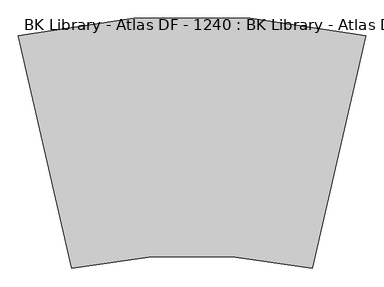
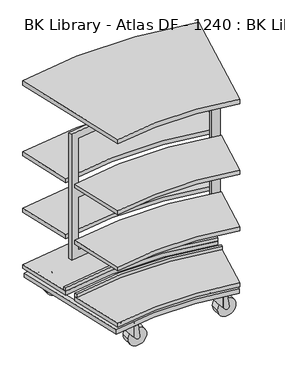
"""IFC4 building model written with IfcOpenShell, lengths in millimetres: furniture geometry, BK Library - Atlas DF - 1240 : BK Library - Atlas DF - 1240."""

from ifc_helpers import new_model, si_unit, point, frame, frame_2d, origin, place, context, project, spatial, polyline, circle_curve, ellipse_curve, trimmed, segment, composite_curve, outline, extrude, source, transform, mapped, element, save
from ifc_brep_helpers import plane_surface, cylinder_surface, revolved_surface, advanced_brep


def bk_library_atlas_df_1240_bk_library_atlas_df_1240_fbd94dde(model_context):
    return source(origin(), model_context, "Body", "SolidModel", [
        extrude(outline(composite_curve([segment(trimmed(circle_curve(frame_2d((0.0, -1777.8812307)), 2148.52767), [point((-474.1962162, 317.663829))], [point((474.1962162, 317.663829))], False, "CARTESIAN"), True, "CONTINUOUS"), segment(polyline([(474.1962162, 317.663829), (327.6944521, -317.663829)]), True, "CONTINUOUS"), segment(trimmed(circle_curve(frame_2d((0.0, -1840.4430404)), 1557.6392973), [point((327.6944521, -317.663829))], [point((-327.6944521, -317.663829))], True, "CARTESIAN"), True, "CONTINUOUS"), segment(polyline([(-327.6944521, -317.663829), (-474.1962162, 317.663829)]), True, "CONTINUOUS")], self_intersect=False)), frame((0.0, 0.0, 1213.6999998), z_axis=(0.0, 0.0, 1.0), x_axis=(1.0, 0.0, 0.0)), (0.0, 0.0, 1.0), 24.0),
        advanced_brep(
        [(-272.2019507, -254.1984705, 121.6226045), (-207.2197258, -254.1984705, 121.6226045), (-207.2197258, -254.1984705, 116.3900038), (-219.4802832, -228.7741311, 116.3900038), (-219.4802832, -228.7741311, 54.5515736), (-269.4995427, -241.2252106, 113.1446696), (-272.2019507, -254.1984705, 113.1446696), (-207.2197258, -254.1984705, 113.8999998), (-207.2197258, -254.1984705, 44.4908375), (-210.891719, -239.1941127, 44.4908375), (-216.827675, -231.132625, 51.4442799), (-216.827675, -231.132625, 113.8999998), (-216.921762, -277.3572785, 113.8999998), (-216.921762, -277.3572785, 51.5544945), (-210.891719, -269.2028283, 44.4908375), (-269.4995427, -267.1717304, 113.1446696), (-219.5976662, -279.7157724, 54.6890773), (-219.5976662, -279.7157724, 116.3900038), (-210.891719, -254.1984705, 44.4908375), (-214.2197258, -254.1984705, 128.6226045), (-265.2019507, -254.1984705, 128.6226045), (-239.7108382, -254.1984705, 128.6226045), (-208.6289168, -279.7157724, 41.8401668), (-188.2600466, -279.7157724, 51.0748876), (-197.7770665, -279.7157724, 116.3900038), (-197.7770665, -228.7741311, 116.3900038), (-188.2600466, -228.7741311, 51.0748876), (-208.6289168, -228.7741311, 41.8401668), (-208.6289168, -277.3572785, 41.8401668), (-208.6289168, -231.132625, 41.8401668), (-188.2600466, -277.3572785, 51.0748876), (-188.2600466, -231.132625, 51.0748876), (-197.4142497, -277.3572785, 113.8999998), (-197.4142497, -231.132625, 113.8999998)],
        [
            (0, 1, circle_curve(frame((-239.7108382, -254.1984705, 121.6226045), z_axis=(0.0, 0.0, -1.0), x_axis=(-1.0, 0.0, 0.0)), 32.4911124)),
            (1, 2),
            (2, 3, circle_curve(frame((-239.7108382, -254.1984705, 116.3900038), z_axis=(0.0, 0.0, 1.0), x_axis=(-1.0, 0.0, 0.0)), 32.4911124)),
            (3, 4),
            (4, 5, ellipse_curve(frame((-239.7108382, -254.1984705, 78.2498623), z_axis=(0.7605596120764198, 0.0, 0.6492681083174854), x_axis=(0.6492681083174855, 0.0, -0.7605596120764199)), 50.0426742, 32.4911124)),
            (5, 6, circle_curve(frame((-239.7108382, -254.1984705, 113.1446696), z_axis=(0.0, 0.0, 1.0), x_axis=(-1.0, 0.0, 0.0)), 32.4911124)),
            (6, 0),
            (7, 8),
            (8, 9, circle_curve(frame((-239.7108382, -254.1984705, 44.4908375), z_axis=(0.0, 0.0, 1.0), x_axis=(-1.0, 0.0, 0.0)), 32.4911124)),
            (9, 10, ellipse_curve(frame((-239.7108382, -254.1984705, 78.2498623), z_axis=(0.7605596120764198, 0.0, 0.6492681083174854), x_axis=(0.6492681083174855, 0.0, -0.7605596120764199)), 50.0426742, 32.4911124)),
            (10, 11),
            (11, 7, circle_curve(frame((-239.7108382, -254.1984705, 113.8999998), z_axis=(0.0, 0.0, -1.0), x_axis=(-1.0, 0.0, 0.0)), 32.4911124)),
            (7, 12, circle_curve(frame((-239.7108382, -254.1984705, 113.8999998), z_axis=(0.0, 0.0, -1.0), x_axis=(-1.0, 0.0, 0.0)), 32.4911124)),
            (12, 13),
            (13, 14, ellipse_curve(frame((-239.7108382, -254.1984705, 78.2498623), z_axis=(0.7605596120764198, 0.0, 0.6492681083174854), x_axis=(0.6492681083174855, 0.0, -0.7605596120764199)), 50.0426742, 32.4911124)),
            (14, 8, circle_curve(frame((-239.7108382, -254.1984705, 44.4908375), z_axis=(0.0, 0.0, 1.0), x_axis=(-1.0, 0.0, 0.0)), 32.4911124)),
            (1, 0, circle_curve(frame((-239.7108382, -254.1984705, 121.6226045), z_axis=(0.0, 0.0, -1.0), x_axis=(-1.0, 0.0, 0.0)), 32.4911124)),
            (6, 15, circle_curve(frame((-239.7108382, -254.1984705, 113.1446696), z_axis=(0.0, 0.0, 1.0), x_axis=(-1.0, 0.0, 0.0)), 32.4911124)),
            (15, 16, ellipse_curve(frame((-239.7108382, -254.1984705, 78.2498623), z_axis=(0.7605596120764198, 0.0, 0.6492681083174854), x_axis=(0.6492681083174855, 0.0, -0.7605596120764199)), 50.0426742, 32.4911124)),
            (16, 17),
            (17, 2, circle_curve(frame((-239.7108382, -254.1984705, 116.3900038), z_axis=(0.0, 0.0, 1.0), x_axis=(-1.0, 0.0, 0.0)), 32.4911124)),
            (8, 18),
            (18, 9),
            (14, 18),
            (19, 20, circle_curve(frame((-239.7108382, -254.1984705, 128.6226045), z_axis=(0.0, 0.0, 1.0), x_axis=(-1.0, 0.0, 0.0)), 25.4911124)),
            (20, 21),
            (21, 19),
            (20, 19, circle_curve(frame((-239.7108382, -254.1984705, 128.6226045), z_axis=(0.0, 0.0, 1.0), x_axis=(-1.0, 0.0, 0.0)), 25.4911124)),
            (0, 20, circle_curve(frame((-265.2019507, -254.1984705, 121.6226045), z_axis=(0.0, 1.0, 0.0), x_axis=(1.0, 0.0, 0.0)), 7.0)),
            (19, 1, circle_curve(frame((-214.2197258, -254.1984705, 121.6226045), z_axis=(0.0, 1.0, 0.0), x_axis=(-1.0, 0.0, 0.0)), 7.0)),
            (5, 15),
            (22, 23, circle_curve(frame((-199.7770509, -279.7157724, 49.3967529), z_axis=(0.0, -1.0, 0.0), x_axis=(1.0, 0.0, 0.0)), 11.6386221)),
            (23, 24),
            (24, 17),
            (16, 22),
            (25, 26),
            (26, 27, circle_curve(frame((-199.7770509, -228.7741311, 49.3967529), z_axis=(0.0, 1.0, 0.0), x_axis=(1.0, 0.0, 0.0)), 11.6386221)),
            (27, 4),
            (3, 25),
            (24, 25),
            (28, 22),
            (27, 29),
            (29, 10),
            (13, 28),
            (28, 30, circle_curve(frame((-199.7770509, -277.3572785, 49.3967529), z_axis=(0.0, -1.0, 0.0), x_axis=(1.0, 0.0, 0.0)), 11.6386221)),
            (30, 23),
            (26, 31),
            (31, 29, circle_curve(frame((-199.7770509, -231.132625, 49.3967529), z_axis=(0.0, 1.0, 0.0), x_axis=(1.0, 0.0, 0.0)), 11.6386221)),
            (30, 32),
            (32, 33),
            (33, 31),
            (12, 32),
            (11, 33),
        ],
        [
            cylinder_surface(frame((-239.7108382, -254.1984705, 133.8335618), z_axis=(0.0, 0.0, -1.0), x_axis=(-1.0, 0.0, 0.0)), 32.4911124),
            plane_surface(frame((-239.7108382, -254.1984705, 44.4908375), z_axis=(0.0, 0.0, -1.0), x_axis=(-1.0, 0.0, 0.0))),
            plane_surface(frame((-239.7108382, -254.1984705, 128.6226045), z_axis=(0.0, 0.0, 1.0), x_axis=(-1.0, 0.0, 0.0))),
            revolved_surface(trimmed(ellipse_curve(frame((-265.2019507, -254.1984705, 121.6226045), z_axis=(0.0, -1.0, 0.0), x_axis=(1.0, 0.0, 0.0)), 7.0, 7.0), [point((-265.2019507, -254.1984705, 128.6226045))], [point((-272.2019507, -254.1984705, 121.6226045))], True, "CARTESIAN"), (-239.7108382, -254.1984705, 133.8335618), (0.0, 0.0, -1.0)),
            plane_surface(frame((-269.4995427, -336.7007141, 113.1446696), z_axis=(0.0, 0.0, -1.0), x_axis=(0.0, 1.0, 0.0))),
            plane_surface(frame((-197.7770665, -279.7157724, 116.3900038), z_axis=(0.0, -1.0, 0.0), x_axis=(-1.0, 0.0, 0.0))),
            plane_surface(frame((-197.7770665, -228.7741311, 116.3900038), z_axis=(0.0, 1.0, 0.0), x_axis=(1.0, 0.0, 0.0))),
            plane_surface(frame((-197.7770665, -279.7157724, 116.3900038), z_axis=(0.0, 0.0, 1.0), x_axis=(0.0, 1.0, 0.0))),
            plane_surface(frame((-242.7770665, -279.7157724, 81.8416749), z_axis=(-0.7605596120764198, 0.0, -0.6492681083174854), x_axis=(0.0, 1.0, 0.0))),
            cylinder_surface(frame((-199.7770509, -228.7741311, 49.3967529), z_axis=(0.0, -1.0, 0.0), x_axis=(1.0, 0.0, 0.0)), 11.6386221),
            plane_surface(frame((-188.2600466, -279.7157724, 51.0748876), z_axis=(0.9895505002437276, 0.0, 0.14418671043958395), x_axis=(0.0, 1.0, 0.0))),
            plane_surface(frame((-174.1827597, -277.3572785, 113.8999998), z_axis=(0.0, 1.0, 0.0), x_axis=(-1.0, 0.0, 0.0))),
            plane_surface(frame((-174.1827597, -231.132625, 113.8999998), z_axis=(0.0, 0.0, -1.0), x_axis=(-1.0, 0.0, 0.0))),
            plane_surface(frame((-174.1827597, -231.132625, 11.6999998), z_axis=(0.0, -1.0, 0.0), x_axis=(-1.0, 0.0, 0.0))),
        ],
        [
            (0, [[1, 2, 3, 4, 5, 6, 7]]),
            (0, [[8, 9, 10, 11, 12]]),
            (0, [[-8, 13, 14, 15, 16]]),
            (0, [[17, -7, 18, 19, 20, 21, -2]]),
            (1, [[-9, 22, 23]]),
            (1, [[-22, -16, 24]]),
            (2, [[25, 26, 27]]),
            (2, [[-26, 28, -27]]),
            (3, [[-1, 29, -25, 30]]),
            (3, [[-17, -30, -28, -29]]),
            (4, [[31, -18, -6]]),
            (5, [[32, 33, 34, -20, 35]]),
            (6, [[36, 37, 38, -4, 39]]),
            (7, [[40, -39, -3, -21, -34]]),
            (8, [[41, -35, -19, -31, -5, -38, 42, 43, -10, -23, -24, -15, 44]]),
            (9, [[-32, -41, 45, 46]]),
            (9, [[-37, 47, 48, -42]]),
            (10, [[-33, -46, 49, 50, 51, -47, -36, -40]]),
            (11, [[-45, -44, -14, 52, -49]]),
            (12, [[-50, -52, -13, -12, 53]]),
            (13, [[-48, -51, -53, -11, -43]]),
        ],
    ),
        extrude(outline(composite_curve([segment(trimmed(circle_curve(frame_2d((-239.7108382, -254.2293883)), 10.0), [point((-249.7108382, -254.2293883))], [point((-229.7108382, -254.2293883))], False, "CARTESIAN"), True, "CONTINUOUS"), segment(trimmed(circle_curve(frame_2d((-239.7108382, -254.2293883)), 10.0), [point((-229.7108382, -254.2293883))], [point((-249.7108382, -254.2293883))], False, "CARTESIAN"), True, "CONTINUOUS")], self_intersect=False)), frame((0.0, 0.0, 126.1999998), z_axis=(0.0, 0.0, 1.0), x_axis=(1.0, 0.0, 0.0)), (0.0, 0.0, 1.0), 24.8998986),
        extrude(outline(composite_curve([segment(trimmed(circle_curve(frame_2d((49.3999998, -199.6952762)), 50.0), [point((49.3999998, -249.6952762))], [point((49.3999998, -149.6952762))], False, "CARTESIAN"), True, "CONTINUOUS"), segment(trimmed(circle_curve(frame_2d((49.3999998, -199.6952762)), 50.0), [point((49.3999998, -149.6952762))], [point((49.3999998, -249.6952762))], False, "CARTESIAN"), True, "CONTINUOUS")], self_intersect=False)), frame((0.0, -277.3572785, 0.0), z_axis=(0.0, 1.0, 0.0), x_axis=(0.0, 0.0, 1.0)), (0.0, 0.0, 1.0), 46.2857127),
        advanced_brep(
        [(209.7505812, -241.350678, 113.1446696), (209.7505812, -267.2971978, 113.1446696), (207.0481733, -254.3239379, 113.1446696), (270.6212072, -279.8412398, 41.8401668), (290.9900774, -279.8412398, 51.0748876), (281.4730575, -279.8412398, 116.3900038), (259.6524577, -279.8412398, 116.3900038), (259.6524577, -279.8412398, 54.6890773), (281.4730575, -228.8995985, 116.3900038), (290.9900774, -228.8995985, 51.0748876), (270.6212072, -228.8995985, 41.8401668), (259.7698407, -228.8995985, 54.5515736), (259.7698407, -228.8995985, 116.3900038), (272.0303981, -254.3239379, 116.3900038), (270.6212072, -277.4827459, 41.8401668), (270.6212072, -231.2580924, 41.8401668), (262.422449, -231.2580924, 51.4442799), (268.358405, -239.3195801, 44.4908375), (268.358405, -254.3239379, 44.4908375), (268.358405, -269.3282957, 44.4908375), (262.328362, -277.4827459, 51.5544945), (290.9900774, -277.4827459, 51.0748876), (290.9900774, -231.2580924, 51.0748876), (281.8358742, -277.4827459, 113.8999998), (281.8358742, -231.2580924, 113.8999998), (262.328362, -277.4827459, 113.8999998), (272.0303981, -254.3239379, 113.8999998), (262.422449, -231.2580924, 113.8999998), (207.0481733, -254.3239379, 121.6226045), (272.0303981, -254.3239379, 121.6226045), (272.0303981, -254.3239379, 44.4908375), (265.0303981, -254.3239379, 128.6226045), (214.0481733, -254.3239379, 128.6226045), (239.5392857, -254.3239379, 128.6226045)],
        [
            (0, 1),
            (1, 2, circle_curve(frame((239.5392857, -254.3239379, 113.1446696), z_axis=(0.0, 0.0, -1.0), x_axis=(-1.0, 0.0, 0.0)), 32.4911124)),
            (2, 0, circle_curve(frame((239.5392857, -254.3239379, 113.1446696), z_axis=(0.0, 0.0, -1.0), x_axis=(-1.0, 0.0, 0.0)), 32.4911124)),
            (3, 4, circle_curve(frame((279.4730731, -279.8412398, 49.3967529), z_axis=(0.0, -1.0, 0.0), x_axis=(1.0, 0.0, 0.0)), 11.6386221)),
            (4, 5),
            (5, 6),
            (6, 7),
            (7, 3),
            (8, 9),
            (9, 10, circle_curve(frame((279.4730731, -228.8995985, 49.3967529), z_axis=(0.0, 1.0, 0.0), x_axis=(1.0, 0.0, 0.0)), 11.6386221)),
            (10, 11),
            (11, 12),
            (12, 8),
            (5, 8),
            (12, 13, circle_curve(frame((239.5392857, -254.3239379, 116.3900038), z_axis=(0.0, 0.0, -1.0), x_axis=(-1.0, 0.0, 0.0)), 32.4911124)),
            (13, 6, circle_curve(frame((239.5392857, -254.3239379, 116.3900038), z_axis=(0.0, 0.0, -1.0), x_axis=(-1.0, 0.0, 0.0)), 32.4911124)),
            (14, 3),
            (7, 1, ellipse_curve(frame((239.5392857, -254.3239379, 78.2498623), z_axis=(-0.7605596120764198, 0.0, -0.6492681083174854), x_axis=(0.6492681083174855, 0.0, -0.7605596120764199)), 50.0426742, 32.4911124)),
            (0, 11, ellipse_curve(frame((239.5392857, -254.3239379, 78.2498623), z_axis=(-0.7605596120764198, 0.0, -0.6492681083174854), x_axis=(0.6492681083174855, 0.0, -0.7605596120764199)), 50.0426742, 32.4911124)),
            (10, 15),
            (15, 16),
            (16, 17, ellipse_curve(frame((239.5392857, -254.3239379, 78.2498623), z_axis=(-0.7605596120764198, 0.0, -0.6492681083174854), x_axis=(0.6492681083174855, 0.0, -0.7605596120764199)), 50.0426742, 32.4911124)),
            (17, 18),
            (18, 19),
            (19, 20, ellipse_curve(frame((239.5392857, -254.3239379, 78.2498623), z_axis=(-0.7605596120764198, 0.0, -0.6492681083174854), x_axis=(0.6492681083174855, 0.0, -0.7605596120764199)), 50.0426742, 32.4911124)),
            (20, 14),
            (14, 21, circle_curve(frame((279.4730731, -277.4827459, 49.3967529), z_axis=(0.0, -1.0, 0.0), x_axis=(1.0, 0.0, 0.0)), 11.6386221)),
            (21, 4),
            (9, 22),
            (22, 15, circle_curve(frame((279.4730731, -231.2580924, 49.3967529), z_axis=(0.0, 1.0, 0.0), x_axis=(1.0, 0.0, 0.0)), 11.6386221)),
            (21, 23),
            (23, 24),
            (24, 22),
            (20, 25),
            (25, 23),
            (25, 26, circle_curve(frame((239.5392857, -254.3239379, 113.8999998), z_axis=(0.0, 0.0, 1.0), x_axis=(-1.0, 0.0, 0.0)), 32.4911124)),
            (26, 27, circle_curve(frame((239.5392857, -254.3239379, 113.8999998), z_axis=(0.0, 0.0, 1.0), x_axis=(-1.0, 0.0, 0.0)), 32.4911124)),
            (27, 24),
            (27, 16),
            (28, 29, circle_curve(frame((239.5392857, -254.3239379, 121.6226045), z_axis=(0.0, 0.0, -1.0), x_axis=(-1.0, 0.0, 0.0)), 32.4911124)),
            (29, 13),
            (2, 28),
            (26, 30),
            (30, 17, circle_curve(frame((239.5392857, -254.3239379, 44.4908375), z_axis=(0.0, 0.0, 1.0), x_axis=(-1.0, 0.0, 0.0)), 32.4911124)),
            (19, 30, circle_curve(frame((239.5392857, -254.3239379, 44.4908375), z_axis=(0.0, 0.0, 1.0), x_axis=(-1.0, 0.0, 0.0)), 32.4911124)),
            (29, 28, circle_curve(frame((239.5392857, -254.3239379, 121.6226045), z_axis=(0.0, 0.0, -1.0), x_axis=(-1.0, 0.0, 0.0)), 32.4911124)),
            (30, 18),
            (31, 32, circle_curve(frame((239.5392857, -254.3239379, 128.6226045), z_axis=(0.0, 0.0, 1.0), x_axis=(-1.0, 0.0, 0.0)), 25.4911124)),
            (32, 33),
            (33, 31),
            (32, 31, circle_curve(frame((239.5392857, -254.3239379, 128.6226045), z_axis=(0.0, 0.0, 1.0), x_axis=(-1.0, 0.0, 0.0)), 25.4911124)),
            (28, 32, circle_curve(frame((214.0481733, -254.3239379, 121.6226045), z_axis=(0.0, 1.0, 0.0), x_axis=(1.0, 0.0, 0.0)), 7.0)),
            (31, 29, circle_curve(frame((265.0303981, -254.3239379, 121.6226045), z_axis=(0.0, 1.0, 0.0), x_axis=(-1.0, 0.0, 0.0)), 7.0)),
        ],
        [
            plane_surface(frame((209.7505812, -336.8261814, 113.1446696), z_axis=(0.0, 0.0, -1.0), x_axis=(0.0, 1.0, 0.0))),
            plane_surface(frame((281.4730575, -279.8412398, 116.3900038), z_axis=(0.0, -1.0, 0.0), x_axis=(-1.0, 0.0, 0.0))),
            plane_surface(frame((281.4730575, -228.8995985, 116.3900038), z_axis=(0.0, 1.0, 0.0), x_axis=(1.0, 0.0, 0.0))),
            plane_surface(frame((281.4730575, -279.8412398, 116.3900038), z_axis=(0.0, 0.0, 1.0), x_axis=(0.0, 1.0, 0.0))),
            plane_surface(frame((236.4730575, -279.8412398, 81.8416749), z_axis=(-0.7605596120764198, 0.0, -0.6492681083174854), x_axis=(0.0, 1.0, 0.0))),
            cylinder_surface(frame((279.4730731, -228.8995985, 49.3967529), z_axis=(0.0, -1.0, 0.0), x_axis=(1.0, 0.0, 0.0)), 11.6386221),
            plane_surface(frame((290.9900774, -279.8412398, 51.0748876), z_axis=(0.9895505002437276, 0.0, 0.14418671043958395), x_axis=(0.0, 1.0, 0.0))),
            plane_surface(frame((305.0673642, -277.4827459, 113.8999998), z_axis=(0.0, 1.0, 0.0), x_axis=(-1.0, 0.0, 0.0))),
            plane_surface(frame((305.0673642, -231.2580924, 113.8999998), z_axis=(0.0, 0.0, -1.0), x_axis=(-1.0, 0.0, 0.0))),
            plane_surface(frame((305.0673642, -231.2580924, 11.6999998), z_axis=(0.0, -1.0, 0.0), x_axis=(-1.0, 0.0, 0.0))),
            cylinder_surface(frame((239.5392857, -254.3239379, 133.8335618), z_axis=(0.0, 0.0, -1.0), x_axis=(-1.0, 0.0, 0.0)), 32.4911124),
            plane_surface(frame((239.5392857, -254.3239379, 44.4908375), z_axis=(0.0, 0.0, -1.0), x_axis=(-1.0, 0.0, 0.0))),
            plane_surface(frame((239.5392857, -254.3239379, 128.6226045), z_axis=(0.0, 0.0, 1.0), x_axis=(-1.0, 0.0, 0.0))),
            revolved_surface(trimmed(ellipse_curve(frame((214.0481733, -254.3239379, 121.6226045), z_axis=(0.0, -1.0, 0.0), x_axis=(1.0, 0.0, 0.0)), 7.0, 7.0), [point((214.0481733, -254.3239379, 128.6226045))], [point((207.0481733, -254.3239379, 121.6226045))], True, "CARTESIAN"), (239.5392857, -254.3239379, 133.8335618), (0.0, 0.0, -1.0)),
        ],
        [
            (0, [[1, 2, 3]]),
            (1, [[4, 5, 6, 7, 8]]),
            (2, [[9, 10, 11, 12, 13]]),
            (3, [[14, -13, 15, 16, -6]]),
            (4, [[17, -8, 18, -1, 19, -11, 20, 21, 22, 23, 24, 25, 26]]),
            (5, [[-4, -17, 27, 28]]),
            (5, [[-10, 29, 30, -20]]),
            (6, [[-5, -28, 31, 32, 33, -29, -9, -14]]),
            (7, [[-27, -26, 34, 35, -31]]),
            (8, [[-32, -35, 36, 37, 38]]),
            (9, [[-30, -33, -38, 39, -21]]),
            (10, [[40, 41, -15, -12, -19, -3, 42]]),
            (10, [[43, 44, -22, -39, -37]]),
            (10, [[-43, -36, -34, -25, 45]]),
            (10, [[46, -42, -2, -18, -7, -16, -41]]),
            (11, [[-44, 47, -23]]),
            (11, [[-47, -45, -24]]),
            (12, [[48, 49, 50]]),
            (12, [[-49, 51, -50]]),
            (13, [[-40, 52, -48, 53]]),
            (13, [[-46, -53, -51, -52]]),
        ],
    ),
        extrude(outline(composite_curve([segment(trimmed(circle_curve(frame_2d((49.3999998, 279.5548478)), 50.0), [point((49.3999998, 229.5548478))], [point((49.3999998, 329.5548478))], False, "CARTESIAN"), True, "CONTINUOUS"), segment(trimmed(circle_curve(frame_2d((49.3999998, 279.5548478)), 50.0), [point((49.3999998, 329.5548478))], [point((49.3999998, 229.5548478))], False, "CARTESIAN"), True, "CONTINUOUS")], self_intersect=False)), frame((0.0, -277.4827459, 0.0), z_axis=(0.0, 1.0, 0.0), x_axis=(0.0, 0.0, 1.0)), (0.0, 0.0, 1.0), 46.2857127),
        extrude(outline(composite_curve([segment(trimmed(circle_curve(frame_2d((239.5392857, -254.3548557)), 10.0), [point((229.5392857, -254.3548557))], [point((249.5392857, -254.3548557))], False, "CARTESIAN"), True, "CONTINUOUS"), segment(trimmed(circle_curve(frame_2d((239.5392857, -254.3548557)), 10.0), [point((249.5392857, -254.3548557))], [point((229.5392857, -254.3548557))], False, "CARTESIAN"), True, "CONTINUOUS")], self_intersect=False)), frame((0.0, 0.0, 126.1999998), z_axis=(0.0, 0.0, 1.0), x_axis=(1.0, 0.0, 0.0)), (0.0, 0.0, 1.0), 24.8998986),
        advanced_brep(
        [(336.1023802, 305.2827462, 113.1446696), (336.1023802, 279.3362264, 113.1446696), (333.3999722, 292.3094863, 113.1446696), (396.9730061, 266.7921844, 41.8401668), (417.3418763, 266.7921844, 51.0748876), (407.8248565, 266.7921844, 116.3900038), (386.0042567, 266.7921844, 116.3900038), (386.0042567, 266.7921844, 54.6890773), (407.8248565, 317.7338257, 116.3900038), (417.3418763, 317.7338257, 51.0748876), (396.9730061, 317.7338257, 41.8401668), (386.1216397, 317.7338257, 54.5515736), (386.1216397, 317.7338257, 116.3900038), (398.3821971, 292.3094863, 116.3900038), (396.9730061, 269.1506783, 41.8401668), (396.9730061, 315.3753318, 41.8401668), (388.7742479, 315.3753318, 51.4442799), (394.7102039, 307.3138441, 44.4908375), (394.7102039, 292.3094863, 44.4908375), (394.7102039, 277.3051285, 44.4908375), (388.6801609, 269.1506783, 51.5544945), (417.3418763, 269.1506783, 51.0748876), (417.3418763, 315.3753318, 51.0748876), (408.1876732, 269.1506783, 113.8999998), (408.1876732, 315.3753318, 113.8999998), (388.6801609, 269.1506783, 113.8999998), (398.3821971, 292.3094863, 113.8999998), (388.7742479, 315.3753318, 113.8999998), (333.3999722, 292.3094863, 121.6226045), (398.3821971, 292.3094863, 121.6226045), (398.3821971, 292.3094863, 44.4908375), (391.3821971, 292.3094863, 128.6226045), (340.3999722, 292.3094863, 128.6226045), (365.8910847, 292.3094863, 128.6226045)],
        [
            (0, 1),
            (1, 2, circle_curve(frame((365.8910847, 292.3094863, 113.1446696), z_axis=(0.0, 0.0, -1.0), x_axis=(-1.0, 0.0, 0.0)), 32.4911124)),
            (2, 0, circle_curve(frame((365.8910847, 292.3094863, 113.1446696), z_axis=(0.0, 0.0, -1.0), x_axis=(-1.0, 0.0, 0.0)), 32.4911124)),
            (3, 4, circle_curve(frame((405.824872, 266.7921844, 49.3967529), z_axis=(0.0, -1.0, 0.0), x_axis=(1.0, 0.0, 0.0)), 11.6386221)),
            (4, 5),
            (5, 6),
            (6, 7),
            (7, 3),
            (8, 9),
            (9, 10, circle_curve(frame((405.824872, 317.7338257, 49.3967529), z_axis=(0.0, 1.0, 0.0), x_axis=(1.0, 0.0, 0.0)), 11.6386221)),
            (10, 11),
            (11, 12),
            (12, 8),
            (5, 8),
            (12, 13, circle_curve(frame((365.8910847, 292.3094863, 116.3900038), z_axis=(0.0, 0.0, -1.0), x_axis=(-1.0, 0.0, 0.0)), 32.4911124)),
            (13, 6, circle_curve(frame((365.8910847, 292.3094863, 116.3900038), z_axis=(0.0, 0.0, -1.0), x_axis=(-1.0, 0.0, 0.0)), 32.4911124)),
            (14, 3),
            (7, 1, ellipse_curve(frame((365.8910847, 292.3094863, 78.2498623), z_axis=(-0.76055961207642, 0.0, -0.649268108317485), x_axis=(0.649268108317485, 0.0, -0.76055961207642)), 50.0426742, 32.4911124)),
            (0, 11, ellipse_curve(frame((365.8910847, 292.3094863, 78.2498623), z_axis=(-0.76055961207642, 0.0, -0.649268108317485), x_axis=(0.649268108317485, 0.0, -0.76055961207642)), 50.0426742, 32.4911124)),
            (10, 15),
            (15, 16),
            (16, 17, ellipse_curve(frame((365.8910847, 292.3094863, 78.2498623), z_axis=(-0.76055961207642, 0.0, -0.649268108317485), x_axis=(0.649268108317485, 0.0, -0.76055961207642)), 50.0426742, 32.4911124)),
            (17, 18),
            (18, 19),
            (19, 20, ellipse_curve(frame((365.8910847, 292.3094863, 78.2498623), z_axis=(-0.76055961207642, 0.0, -0.649268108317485), x_axis=(0.649268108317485, 0.0, -0.76055961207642)), 50.0426742, 32.4911124)),
            (20, 14),
            (14, 21, circle_curve(frame((405.824872, 269.1506783, 49.3967529), z_axis=(0.0, -1.0, 0.0), x_axis=(1.0, 0.0, 0.0)), 11.6386221)),
            (21, 4),
            (9, 22),
            (22, 15, circle_curve(frame((405.824872, 315.3753318, 49.3967529), z_axis=(0.0, 1.0, 0.0), x_axis=(1.0, 0.0, 0.0)), 11.6386221)),
            (21, 23),
            (23, 24),
            (24, 22),
            (20, 25),
            (25, 23),
            (25, 26, circle_curve(frame((365.8910847, 292.3094863, 113.8999998), z_axis=(0.0, 0.0, 1.0), x_axis=(-1.0, 0.0, 0.0)), 32.4911124)),
            (26, 27, circle_curve(frame((365.8910847, 292.3094863, 113.8999998), z_axis=(0.0, 0.0, 1.0), x_axis=(-1.0, 0.0, 0.0)), 32.4911124)),
            (27, 24),
            (27, 16),
            (28, 29, circle_curve(frame((365.8910847, 292.3094863, 121.6226045), z_axis=(0.0, 0.0, -1.0), x_axis=(-1.0, 0.0, 0.0)), 32.4911124)),
            (29, 13),
            (2, 28),
            (26, 30),
            (30, 17, circle_curve(frame((365.8910847, 292.3094863, 44.4908375), z_axis=(0.0, 0.0, 1.0), x_axis=(-1.0, 0.0, 0.0)), 32.4911124)),
            (19, 30, circle_curve(frame((365.8910847, 292.3094863, 44.4908375), z_axis=(0.0, 0.0, 1.0), x_axis=(-1.0, 0.0, 0.0)), 32.4911124)),
            (29, 28, circle_curve(frame((365.8910847, 292.3094863, 121.6226045), z_axis=(0.0, 0.0, -1.0), x_axis=(-1.0, 0.0, 0.0)), 32.4911124)),
            (30, 18),
            (31, 32, circle_curve(frame((365.8910847, 292.3094863, 128.6226045), z_axis=(0.0, 0.0, 1.0), x_axis=(-1.0, 0.0, 0.0)), 25.4911124)),
            (32, 33),
            (33, 31),
            (32, 31, circle_curve(frame((365.8910847, 292.3094863, 128.6226045), z_axis=(0.0, 0.0, 1.0), x_axis=(-1.0, 0.0, 0.0)), 25.4911124)),
            (28, 32, circle_curve(frame((340.3999722, 292.3094863, 121.6226045), z_axis=(0.0, 1.0, 0.0), x_axis=(1.0, 0.0, 0.0)), 7.0)),
            (31, 29, circle_curve(frame((391.3821971, 292.3094863, 121.6226045), z_axis=(0.0, 1.0, 0.0), x_axis=(-1.0, 0.0, 0.0)), 7.0)),
        ],
        [
            plane_surface(frame((336.1023802, 209.8072428, 113.1446696), z_axis=(0.0, 0.0, -1.0), x_axis=(0.0, 1.0, 0.0))),
            plane_surface(frame((407.8248565, 266.7921844, 116.3900038), z_axis=(0.0, -1.0, 0.0), x_axis=(-1.0, 0.0, 0.0))),
            plane_surface(frame((407.8248565, 317.7338257, 116.3900038), z_axis=(0.0, 1.0, 0.0), x_axis=(1.0, 0.0, 0.0))),
            plane_surface(frame((407.8248565, 266.7921844, 116.3900038), z_axis=(0.0, 0.0, 1.0), x_axis=(0.0, 1.0, 0.0))),
            plane_surface(frame((362.8248565, 266.7921844, 81.8416749), z_axis=(-0.76055961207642, 0.0, -0.649268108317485), x_axis=(0.0, 1.0, 0.0))),
            cylinder_surface(frame((405.824872, 317.7338257, 49.3967529), z_axis=(0.0, -1.0, 0.0), x_axis=(1.0, 0.0, 0.0)), 11.6386221),
            plane_surface(frame((417.3418763, 266.7921844, 51.0748876), z_axis=(0.9895505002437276, 0.0, 0.14418671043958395), x_axis=(0.0, 1.0, 0.0))),
            plane_surface(frame((431.4191632, 269.1506783, 113.8999998), z_axis=(0.0, 1.0, 0.0), x_axis=(-1.0, 0.0, 0.0))),
            plane_surface(frame((431.4191632, 315.3753318, 113.8999998), z_axis=(0.0, 0.0, -1.0), x_axis=(-1.0, 0.0, 0.0))),
            plane_surface(frame((431.4191632, 315.3753318, 11.6999998), z_axis=(0.0, -1.0, 0.0), x_axis=(-1.0, 0.0, 0.0))),
            cylinder_surface(frame((365.8910847, 292.3094863, 133.8335618), z_axis=(0.0, 0.0, -1.0), x_axis=(-1.0, 0.0, 0.0)), 32.4911124),
            plane_surface(frame((365.8910847, 292.3094863, 44.4908375), z_axis=(0.0, 0.0, -1.0), x_axis=(-1.0, 0.0, 0.0))),
            plane_surface(frame((365.8910847, 292.3094863, 128.6226045), z_axis=(0.0, 0.0, 1.0), x_axis=(-1.0, 0.0, 0.0))),
            revolved_surface(trimmed(ellipse_curve(frame((340.3999722, 292.3094863, 121.6226045), z_axis=(0.0, -1.0, 0.0), x_axis=(1.0, 0.0, 0.0)), 7.0, 7.0), [point((340.3999722, 292.3094863, 128.6226045))], [point((333.3999722, 292.3094863, 121.6226045))], True, "CARTESIAN"), (365.8910847, 292.3094863, 133.8335618), (0.0, 0.0, -1.0)),
        ],
        [
            (0, [[1, 2, 3]]),
            (1, [[4, 5, 6, 7, 8]]),
            (2, [[9, 10, 11, 12, 13]]),
            (3, [[14, -13, 15, 16, -6]]),
            (4, [[17, -8, 18, -1, 19, -11, 20, 21, 22, 23, 24, 25, 26]]),
            (5, [[-4, -17, 27, 28]]),
            (5, [[-10, 29, 30, -20]]),
            (6, [[-5, -28, 31, 32, 33, -29, -9, -14]]),
            (7, [[-27, -26, 34, 35, -31]]),
            (8, [[-32, -35, 36, 37, 38]]),
            (9, [[-30, -33, -38, 39, -21]]),
            (10, [[40, 41, -15, -12, -19, -3, 42]]),
            (10, [[43, 44, -22, -39, -37]]),
            (10, [[-43, -36, -34, -25, 45]]),
            (10, [[46, -42, -2, -18, -7, -16, -41]]),
            (11, [[-44, 47, -23]]),
            (11, [[-47, -45, -24]]),
            (12, [[48, 49, 50]]),
            (12, [[-49, 51, -50]]),
            (13, [[-40, 52, -48, 53]]),
            (13, [[-46, -53, -51, -52]]),
        ],
    ),
        extrude(outline(composite_curve([segment(trimmed(circle_curve(frame_2d((49.3999998, 405.9066468)), 50.0), [point((49.3999998, 355.9066468))], [point((49.3999998, 455.9066468))], False, "CARTESIAN"), True, "CONTINUOUS"), segment(trimmed(circle_curve(frame_2d((49.3999998, 405.9066468)), 50.0), [point((49.3999998, 455.9066468))], [point((49.3999998, 355.9066468))], False, "CARTESIAN"), True, "CONTINUOUS")], self_intersect=False)), frame((0.0, 269.1506783, 0.0), z_axis=(0.0, 1.0, 0.0), x_axis=(0.0, 0.0, 1.0)), (0.0, 0.0, 1.0), 46.2857127),
        extrude(outline(composite_curve([segment(trimmed(circle_curve(frame_2d((49.3999998, -325.7608412)), 50.0), [point((49.3999998, -375.7608412))], [point((49.3999998, -275.7608412))], False, "CARTESIAN"), True, "CONTINUOUS"), segment(trimmed(circle_curve(frame_2d((49.3999998, -325.7608412)), 50.0), [point((49.3999998, -275.7608412))], [point((49.3999998, -375.7608412))], False, "CARTESIAN"), True, "CONTINUOUS")], self_intersect=False)), frame((0.0, 269.3422284, 0.0), z_axis=(0.0, 1.0, 0.0), x_axis=(0.0, 0.0, 1.0)), (0.0, 0.0, 1.0), 46.2857127),
        extrude(outline(composite_curve([segment(trimmed(circle_curve(frame_2d((365.8910847, 292.2785685)), 10.0), [point((355.8910847, 292.2785685))], [point((375.8910847, 292.2785685))], False, "CARTESIAN"), True, "CONTINUOUS"), segment(trimmed(circle_curve(frame_2d((365.8910847, 292.2785685)), 10.0), [point((375.8910847, 292.2785685))], [point((355.8910847, 292.2785685))], False, "CARTESIAN"), True, "CONTINUOUS")], self_intersect=False)), frame((0.0, 0.0, 126.1999998), z_axis=(0.0, 0.0, 1.0), x_axis=(1.0, 0.0, 0.0)), (0.0, 0.0, 1.0), 24.8998986),
        advanced_brep(
        [(-334.6944819, 266.9837345, 41.8401668), (-314.3256117, 266.9837345, 51.0748876), (-323.8426315, 266.9837345, 116.3900038), (-345.6632313, 266.9837345, 116.3900038), (-345.6632313, 266.9837345, 54.6890773), (-323.8426315, 317.9253758, 116.3900038), (-314.3256117, 317.9253758, 51.0748876), (-334.6944819, 317.9253758, 41.8401668), (-345.5458483, 317.9253758, 54.5515736), (-345.5458483, 317.9253758, 116.3900038), (-333.2852909, 292.5010364, 116.3900038), (-334.6944819, 269.3422284, 41.8401668), (-395.5651078, 279.5277766, 113.1446696), (-395.5651078, 305.4742963, 113.1446696), (-334.6944819, 315.5668819, 41.8401668), (-342.89324, 315.5668819, 51.4442799), (-336.9572841, 307.5053942, 44.4908375), (-336.9572841, 292.5010364, 44.4908375), (-336.9572841, 277.4966786, 44.4908375), (-342.9873271, 269.3422284, 51.5544945), (-314.3256117, 269.3422284, 51.0748876), (-314.3256117, 315.5668819, 51.0748876), (-323.4798148, 269.3422284, 113.8999998), (-323.4798148, 315.5668819, 113.8999998), (-342.9873271, 269.3422284, 113.8999998), (-333.2852909, 292.5010364, 113.8999998), (-342.89324, 315.5668819, 113.8999998), (-398.2675157, 292.5010364, 121.6226045), (-333.2852909, 292.5010364, 121.6226045), (-398.2675157, 292.5010364, 113.1446696), (-333.2852909, 292.5010364, 44.4908375), (-340.2852909, 292.5010364, 128.6226045), (-391.2675157, 292.5010364, 128.6226045), (-365.7764033, 292.5010364, 128.6226045)],
        [
            (0, 1, circle_curve(frame((-325.842616, 266.9837345, 49.3967529), z_axis=(0.0, -1.0, 0.0), x_axis=(1.0, 0.0, 0.0)), 11.6386221)),
            (1, 2),
            (2, 3),
            (3, 4),
            (4, 0),
            (5, 6),
            (6, 7, circle_curve(frame((-325.842616, 317.9253758, 49.3967529), z_axis=(0.0, 1.0, 0.0), x_axis=(1.0, 0.0, 0.0)), 11.6386221)),
            (7, 8),
            (8, 9),
            (9, 5),
            (2, 5),
            (9, 10, circle_curve(frame((-365.7764033, 292.5010364, 116.3900038), z_axis=(0.0, 0.0, -1.0), x_axis=(-1.0, 0.0, 0.0)), 32.4911124)),
            (10, 3, circle_curve(frame((-365.7764033, 292.5010364, 116.3900038), z_axis=(0.0, 0.0, -1.0), x_axis=(-1.0, 0.0, 0.0)), 32.4911124)),
            (11, 0),
            (4, 12, ellipse_curve(frame((-365.7764033, 292.5010364, 78.2498623), z_axis=(-0.76055961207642, 0.0, -0.649268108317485), x_axis=(0.649268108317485, 0.0, -0.76055961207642)), 50.0426742, 32.4911124)),
            (12, 13),
            (13, 8, ellipse_curve(frame((-365.7764033, 292.5010364, 78.2498623), z_axis=(-0.76055961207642, 0.0, -0.649268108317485), x_axis=(0.649268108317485, 0.0, -0.76055961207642)), 50.0426742, 32.4911124)),
            (7, 14),
            (14, 15),
            (15, 16, ellipse_curve(frame((-365.7764033, 292.5010364, 78.2498623), z_axis=(-0.76055961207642, 0.0, -0.649268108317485), x_axis=(0.649268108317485, 0.0, -0.76055961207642)), 50.0426742, 32.4911124)),
            (16, 17),
            (17, 18),
            (18, 19, ellipse_curve(frame((-365.7764033, 292.5010364, 78.2498623), z_axis=(-0.76055961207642, 0.0, -0.649268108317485), x_axis=(0.649268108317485, 0.0, -0.76055961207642)), 50.0426742, 32.4911124)),
            (19, 11),
            (11, 20, circle_curve(frame((-325.842616, 269.3422284, 49.3967529), z_axis=(0.0, -1.0, 0.0), x_axis=(1.0, 0.0, 0.0)), 11.6386221)),
            (20, 1),
            (6, 21),
            (21, 14, circle_curve(frame((-325.842616, 315.5668819, 49.3967529), z_axis=(0.0, 1.0, 0.0), x_axis=(1.0, 0.0, 0.0)), 11.6386221)),
            (20, 22),
            (22, 23),
            (23, 21),
            (19, 24),
            (24, 22),
            (24, 25, circle_curve(frame((-365.7764033, 292.5010364, 113.8999998), z_axis=(0.0, 0.0, 1.0), x_axis=(-1.0, 0.0, 0.0)), 32.4911124)),
            (25, 26, circle_curve(frame((-365.7764033, 292.5010364, 113.8999998), z_axis=(0.0, 0.0, 1.0), x_axis=(-1.0, 0.0, 0.0)), 32.4911124)),
            (26, 23),
            (26, 15),
            (27, 28, circle_curve(frame((-365.7764033, 292.5010364, 121.6226045), z_axis=(0.0, 0.0, -1.0), x_axis=(-1.0, 0.0, 0.0)), 32.4911124)),
            (28, 10),
            (13, 29, circle_curve(frame((-365.7764033, 292.5010364, 113.1446696), z_axis=(0.0, 0.0, 1.0), x_axis=(-1.0, 0.0, 0.0)), 32.4911124)),
            (29, 27),
            (30, 16, circle_curve(frame((-365.7764033, 292.5010364, 44.4908375), z_axis=(0.0, 0.0, 1.0), x_axis=(-1.0, 0.0, 0.0)), 32.4911124)),
            (25, 30),
            (28, 27, circle_curve(frame((-365.7764033, 292.5010364, 121.6226045), z_axis=(0.0, 0.0, -1.0), x_axis=(-1.0, 0.0, 0.0)), 32.4911124)),
            (29, 12, circle_curve(frame((-365.7764033, 292.5010364, 113.1446696), z_axis=(0.0, 0.0, 1.0), x_axis=(-1.0, 0.0, 0.0)), 32.4911124)),
            (18, 30, circle_curve(frame((-365.7764033, 292.5010364, 44.4908375), z_axis=(0.0, 0.0, 1.0), x_axis=(-1.0, 0.0, 0.0)), 32.4911124)),
            (30, 17),
            (31, 32, circle_curve(frame((-365.7764033, 292.5010364, 128.6226045), z_axis=(0.0, 0.0, 1.0), x_axis=(-1.0, 0.0, 0.0)), 25.4911124)),
            (32, 33),
            (33, 31),
            (32, 31, circle_curve(frame((-365.7764033, 292.5010364, 128.6226045), z_axis=(0.0, 0.0, 1.0), x_axis=(-1.0, 0.0, 0.0)), 25.4911124)),
            (27, 32, circle_curve(frame((-391.2675157, 292.5010364, 121.6226045), z_axis=(0.0, 1.0, 0.0), x_axis=(1.0, 0.0, 0.0)), 7.0)),
            (31, 28, circle_curve(frame((-340.2852909, 292.5010364, 121.6226045), z_axis=(0.0, 1.0, 0.0), x_axis=(-1.0, 0.0, 0.0)), 7.0)),
        ],
        [
            plane_surface(frame((-323.8426315, 266.9837345, 116.3900038), z_axis=(0.0, -1.0, 0.0), x_axis=(-1.0, 0.0, 0.0))),
            plane_surface(frame((-323.8426315, 317.9253758, 116.3900038), z_axis=(0.0, 1.0, 0.0), x_axis=(1.0, 0.0, 0.0))),
            plane_surface(frame((-323.8426315, 266.9837345, 116.3900038), z_axis=(0.0, 0.0, 1.0), x_axis=(0.0, 1.0, 0.0))),
            plane_surface(frame((-368.8426315, 266.9837345, 81.8416749), z_axis=(-0.76055961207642, 0.0, -0.649268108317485), x_axis=(0.0, 1.0, 0.0))),
            cylinder_surface(frame((-325.842616, 317.9253758, 49.3967529), z_axis=(0.0, -1.0, 0.0), x_axis=(1.0, 0.0, 0.0)), 11.6386221),
            plane_surface(frame((-314.3256117, 266.9837345, 51.0748876), z_axis=(0.9895505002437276, 0.0, 0.14418671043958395), x_axis=(0.0, 1.0, 0.0))),
            plane_surface(frame((-300.2483248, 269.3422284, 113.8999998), z_axis=(0.0, 1.0, 0.0), x_axis=(-1.0, 0.0, 0.0))),
            plane_surface(frame((-300.2483248, 315.5668819, 113.8999998), z_axis=(0.0, 0.0, -1.0), x_axis=(-1.0, 0.0, 0.0))),
            plane_surface(frame((-300.2483248, 315.5668819, 11.6999998), z_axis=(0.0, -1.0, 0.0), x_axis=(-1.0, 0.0, 0.0))),
            cylinder_surface(frame((-365.7764033, 292.5010364, 133.8335618), z_axis=(0.0, 0.0, -1.0), x_axis=(-1.0, 0.0, 0.0)), 32.4911124),
            plane_surface(frame((-365.7764033, 292.5010364, 44.4908375), z_axis=(0.0, 0.0, -1.0), x_axis=(-1.0, 0.0, 0.0))),
            plane_surface(frame((-365.7764033, 292.5010364, 128.6226045), z_axis=(0.0, 0.0, 1.0), x_axis=(-1.0, 0.0, 0.0))),
            revolved_surface(trimmed(ellipse_curve(frame((-391.2675157, 292.5010364, 121.6226045), z_axis=(0.0, -1.0, 0.0), x_axis=(1.0, 0.0, 0.0)), 7.0, 7.0), [point((-391.2675157, 292.5010364, 128.6226045))], [point((-398.2675157, 292.5010364, 121.6226045))], True, "CARTESIAN"), (-365.7764033, 292.5010364, 133.8335618), (0.0, 0.0, -1.0)),
            plane_surface(frame((-395.5651078, 209.9987929, 113.1446696), z_axis=(0.0, 0.0, -1.0), x_axis=(0.0, 1.0, 0.0))),
        ],
        [
            (0, [[1, 2, 3, 4, 5]]),
            (1, [[6, 7, 8, 9, 10]]),
            (2, [[11, -10, 12, 13, -3]]),
            (3, [[14, -5, 15, 16, 17, -8, 18, 19, 20, 21, 22, 23, 24]]),
            (4, [[-1, -14, 25, 26]]),
            (4, [[-7, 27, 28, -18]]),
            (5, [[-2, -26, 29, 30, 31, -27, -6, -11]]),
            (6, [[-25, -24, 32, 33, -29]]),
            (7, [[-30, -33, 34, 35, 36]]),
            (8, [[-28, -31, -36, 37, -19]]),
            (9, [[38, 39, -12, -9, -17, 40, 41]]),
            (9, [[42, -20, -37, -35, 43]]),
            (9, [[44, -41, 45, -15, -4, -13, -39]]),
            (9, [[46, -43, -34, -32, -23]]),
            (10, [[-42, 47, -21]]),
            (10, [[-47, -46, -22]]),
            (11, [[48, 49, 50]]),
            (11, [[-49, 51, -50]]),
            (12, [[-38, 52, -48, 53]]),
            (12, [[-44, -53, -51, -52]]),
            (13, [[-16, -45, -40]]),
        ],
    ),
        extrude(outline(composite_curve([segment(trimmed(circle_curve(frame_2d((-365.7764033, 292.4701186)), 10.0), [point((-375.7764033, 292.4701186))], [point((-355.7764033, 292.4701186))], False, "CARTESIAN"), True, "CONTINUOUS"), segment(trimmed(circle_curve(frame_2d((-365.7764033, 292.4701186)), 10.0), [point((-355.7764033, 292.4701186))], [point((-375.7764033, 292.4701186))], False, "CARTESIAN"), True, "CONTINUOUS")], self_intersect=False)), frame((0.0, 0.0, 126.1999998), z_axis=(0.0, 0.0, 1.0), x_axis=(1.0, 0.0, 0.0)), (0.0, 0.0, 1.0), 24.8998986),
        extrude(outline(composite_curve([segment(trimmed(circle_curve(frame_2d((-0.1289567, -1789.54304)), 2148.52767), [point((-471.6391631, 306.6080219))], [point((471.6410197, 306.549572))], False, "CARTESIAN"), True, "CONTINUOUS"), segment(polyline([(471.6410197, 306.549572), (330.6052405, -305.0739935)]), True, "CONTINUOUS"), segment(trimmed(circle_curve(frame_2d((5.2928449, -1828.3638627)), 1557.6392973), [point((330.6052405, -305.0739935))], [point((-330.0861441, -307.2586348))], True, "CARTESIAN"), True, "CONTINUOUS"), segment(polyline([(-330.0861441, -307.2586348), (-471.6391631, 306.6080219)]), True, "CONTINUOUS")], self_intersect=False), holes=[composite_curve([segment(trimmed(circle_curve(frame_2d((0.0, -1803.8543755)), 1557.9492408), [point((-311.3398697, -277.3310961))], [point((311.3398697, -277.3310961))], False, "CARTESIAN"), True, "CONTINUOUS"), segment(polyline([(311.3398697, -277.3310961), (441.81755, 287.9820793)]), True, "CONTINUOUS"), segment(trimmed(circle_curve(frame_2d((0.0, -1860.8084472)), 2193.7418887), [point((441.81755, 287.9820793))], [point((-441.81755, 287.9820793))], True, "CARTESIAN"), True, "CONTINUOUS"), segment(polyline([(-441.81755, 287.9820793), (-311.3398697, -277.3310961)]), True, "CONTINUOUS")], self_intersect=False)]), frame((0.0, 0.0, 126.2197818), z_axis=(0.0, 0.0, 1.0), x_axis=(1.0, 0.0, 0.0)), (0.0, 0.0, 1.0), 24.8801166),
        advanced_brep(
        [(-403.1922937, 9.7442892, 1106.1999998), (-398.6983746, -9.7442892, 1106.1999998), (398.6983746, -9.7442892, 1106.1999998), (403.1922937, 9.7442892, 1106.1999998), (-403.1922937, 9.7442892, 391.1999998), (403.1922937, 9.7442892, 391.1999998), (398.6983746, -9.7442892, 391.1999998), (-398.6983746, -9.7442892, 391.1999998), (359.7000463, -1.6061954, 1066.1999998), (359.7000463, -1.6061954, 768.6999998), (-359.7212176, -1.6103769, 768.6999998), (-359.7212176, -1.6103769, 1066.1999998), (-359.7212176, -1.6103769, 728.6999998), (359.7000463, -1.6061954, 728.6999998), (359.7000463, -1.6061954, 431.1999998), (-359.7212176, -1.6103769, 431.1999998), (359.7000463, 18.8192746, 768.6999998), (359.7000463, 18.8192746, 1066.1999998), (-359.7212176, 18.8151191, 1066.1999998), (-359.7212176, 18.8151191, 768.6999998), (359.7000463, 18.8192746, 728.6999998), (-359.7212176, 18.8151191, 728.6999998), (-359.7212176, 18.8151191, 431.1999998), (359.7000463, 18.8192746, 431.1999998)],
        [
            (0, 1),
            (1, 2, circle_curve(frame((0.0, -1822.824997, 1106.1999998), z_axis=(0.0, 0.0, -1.0), x_axis=(1.0, 0.0, 0.0)), 1856.4002927)),
            (2, 3),
            (3, 0, circle_curve(frame((0.0, -1813.8149651, 1106.1999998), z_axis=(0.0, 0.0, 1.0), x_axis=(1.0, 0.0, 0.0)), 1867.6007014)),
            (4, 5, circle_curve(frame((0.0, -1813.8149651, 391.1999998), z_axis=(0.0, 0.0, -1.0), x_axis=(1.0, 0.0, 0.0)), 1867.6007014)),
            (5, 6),
            (6, 7, circle_curve(frame((0.0, -1822.824997, 391.1999998), z_axis=(0.0, 0.0, 1.0), x_axis=(1.0, 0.0, 0.0)), 1856.4002927)),
            (7, 4),
            (0, 4),
            (7, 1),
            (2, 6),
            (5, 3),
            (8, 9),
            (9, 10, circle_curve(frame((0.0, -1822.824997, 768.6999998), z_axis=(0.0, 0.0, 1.0), x_axis=(1.0, 0.0, 0.0)), 1856.4002927)),
            (10, 11),
            (11, 8, circle_curve(frame((0.0, -1822.824997, 1066.1999998), z_axis=(0.0, 0.0, -1.0), x_axis=(1.0, 0.0, 0.0)), 1856.4002927)),
            (12, 13, circle_curve(frame((0.0, -1822.824997, 728.6999998), z_axis=(0.0, 0.0, -1.0), x_axis=(1.0, 0.0, 0.0)), 1856.4002927)),
            (13, 14),
            (14, 15, circle_curve(frame((0.0, -1822.824997, 431.1999998), z_axis=(0.0, 0.0, 1.0), x_axis=(1.0, 0.0, 0.0)), 1856.4002927)),
            (15, 12),
            (16, 17),
            (17, 18, circle_curve(frame((0.0, -1813.8149651, 1066.1999998), z_axis=(0.0, 0.0, 1.0), x_axis=(1.0, 0.0, 0.0)), 1867.6007014)),
            (18, 19),
            (19, 16, circle_curve(frame((0.0, -1813.8149651, 768.6999998), z_axis=(0.0, 0.0, -1.0), x_axis=(1.0, 0.0, 0.0)), 1867.6007014)),
            (20, 21, circle_curve(frame((0.0, -1813.8149651, 728.6999998), z_axis=(0.0, 0.0, 1.0), x_axis=(1.0, 0.0, 0.0)), 1867.6007014)),
            (21, 22),
            (22, 23, circle_curve(frame((0.0, -1813.8149651, 431.1999998), z_axis=(0.0, 0.0, -1.0), x_axis=(1.0, 0.0, 0.0)), 1867.6007014)),
            (23, 20),
            (16, 9),
            (8, 17),
            (11, 18),
            (10, 19),
            (20, 13),
            (12, 21),
            (15, 22),
            (14, 23),
        ],
        [
            plane_surface(frame((-326.7956683, -321.5615447, 1106.1999998), z_axis=(0.0, 0.0, 1.0), x_axis=(0.224695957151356, -0.9744289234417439, 0.0))),
            plane_surface(frame((-326.7956683, -321.5615447, 391.1999998), z_axis=(0.0, 0.0, -1.0), x_axis=(-0.224695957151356, 0.9744289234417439, 0.0))),
            plane_surface(frame((-403.1922937, 9.7442892, 1106.1999998), z_axis=(-0.9744289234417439, -0.224695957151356, 0.0), x_axis=(0.0, 0.0, -1.0))),
            plane_surface(frame((398.6983746, -9.7442892, 1106.1999998), z_axis=(0.974428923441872, -0.22469595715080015, 0.0), x_axis=(0.0, 0.0, -1.0))),
            revolved_surface(polyline([(1856.4002927, -1822.824997, 391.1999998), (1856.4002927, -1822.824997, 1106.1999998)]), (0.0, -1822.824997, 391.1999998), (0.0, 0.0, -1.0)),
            cylinder_surface(frame((0.0, -1813.8149651, 391.1999998), z_axis=(0.0, 0.0, 1.0), x_axis=(1.0, 0.0, 0.0)), 1867.6007014),
            plane_surface(frame((359.7000463, -114.4923923, 768.6999998), z_axis=(-1.0, 0.0, 0.0), x_axis=(0.0, 1.0, 0.0))),
            plane_surface(frame((359.7000463, -114.4923923, 1066.1999998), z_axis=(0.0, 0.0, -1.0), x_axis=(0.0, 1.0, 0.0))),
            plane_surface(frame((-359.7212176, -114.4923923, 1066.1999998), z_axis=(1.0, 0.0, 0.0), x_axis=(0.0, 1.0, 0.0))),
            plane_surface(frame((-359.7212176, -114.4923923, 768.6999998), z_axis=(0.0, 0.0, 1.0), x_axis=(0.0, 1.0, 0.0))),
            plane_surface(frame((359.7000463, -114.4923923, 728.6999998), z_axis=(0.0, 0.0, -1.0), x_axis=(0.0, 1.0, 0.0))),
            plane_surface(frame((-359.7212176, -114.4923923, 728.6999998), z_axis=(1.0, 0.0, 0.0), x_axis=(0.0, 1.0, 0.0))),
            plane_surface(frame((-359.7212176, -114.4923923, 431.1999998), z_axis=(0.0, 0.0, 1.0), x_axis=(0.0, 1.0, 0.0))),
            plane_surface(frame((359.7000463, -114.4923923, 431.1999998), z_axis=(-1.0, 0.0, 0.0), x_axis=(0.0, 1.0, 0.0))),
        ],
        [
            (0, [[1, 2, 3, 4]]),
            (1, [[5, 6, 7, 8]]),
            (2, [[-1, 9, -8, 10]]),
            (3, [[-3, 11, -6, 12]]),
            (4, [[-2, -10, -7, -11], [13, 14, 15, 16], [17, 18, 19, 20]]),
            (5, [[-4, -12, -5, -9], [21, 22, 23, 24], [25, 26, 27, 28]]),
            (6, [[29, -13, 30, -21]]),
            (7, [[-30, -16, 31, -22]]),
            (8, [[-31, -15, 32, -23]]),
            (9, [[-29, -24, -32, -14]]),
            (10, [[33, -17, 34, -25]]),
            (11, [[-34, -20, 35, -26]]),
            (12, [[-35, -19, 36, -27]]),
            (13, [[-33, -28, -36, -18]]),
        ],
    ),
        extrude(outline(composite_curve([segment(trimmed(circle_curve(frame_2d((0.0, -1840.4430404)), 1557.6392973), [point((327.6944521, -317.663829))], [point((-327.6944521, -317.663829))], True, "CARTESIAN"), True, "CONTINUOUS"), segment(polyline([(-327.6944521, -317.663829), (-394.2058088, -29.2269986)]), True, "CONTINUOUS"), segment(trimmed(circle_curve(frame_2d((0.0, -1785.1487517)), 1799.627579), [point((-394.2058088, -29.2269986))], [point((394.2058088, -29.2269986))], False, "CARTESIAN"), True, "CONTINUOUS"), segment(polyline([(394.2058088, -29.2269986), (327.6944521, -317.663829)]), True, "CONTINUOUS")], self_intersect=False)), frame((0.0, 0.0, 171.6999998), z_axis=(0.0, 0.0, 1.0), x_axis=(1.0, 0.0, 0.0)), (0.0, 0.0, 1.0), 22.0),
        extrude(outline(composite_curve([segment(trimmed(circle_curve(frame_2d((0.0, -1777.8812307)), 2148.52767), [point((-474.1962162, 317.663829))], [point((474.1962162, 317.663829))], False, "CARTESIAN"), True, "CONTINUOUS"), segment(polyline([(474.1962162, 317.663829), (407.6853202, 29.2289965)]), True, "CONTINUOUS"), segment(trimmed(circle_curve(frame_2d((0.0, -1798.2835703)), 1872.4341116), [point((407.6853202, 29.2289965))], [point((-407.6853202, 29.2289965))], True, "CARTESIAN"), True, "CONTINUOUS"), segment(polyline([(-407.6853202, 29.2289965), (-474.1962162, 317.663829)]), True, "CONTINUOUS")], self_intersect=False)), frame((0.0, 0.0, 171.6999998), z_axis=(0.0, 0.0, 1.0), x_axis=(1.0, 0.0, 0.0)), (0.0, 0.0, 1.0), 22.0),
        extrude(outline(composite_curve([segment(trimmed(circle_curve(frame_2d((0.0, -1840.4430404)), 1557.6392973), [point((327.6944521, -317.663829))], [point((-327.6944521, -317.663829))], True, "CARTESIAN"), True, "CONTINUOUS"), segment(polyline([(-327.6944521, -317.663829), (-394.2058088, -29.2269986)]), True, "CONTINUOUS"), segment(trimmed(circle_curve(frame_2d((0.0, -1785.1487517)), 1799.627579), [point((-394.2058088, -29.2269986))], [point((394.2058088, -29.2269986))], False, "CARTESIAN"), True, "CONTINUOUS"), segment(polyline([(394.2058088, -29.2269986), (327.6944521, -317.663829)]), True, "CONTINUOUS")], self_intersect=False)), frame((0.0, 0.0, 491.6999998), z_axis=(0.0, 0.0, 1.0), x_axis=(1.0, 0.0, 0.0)), (0.0, 0.0, 1.0), 22.0),
        extrude(outline(composite_curve([segment(trimmed(circle_curve(frame_2d((0.0, -1777.8812307)), 2148.52767), [point((-474.1962162, 317.663829))], [point((474.1962162, 317.663829))], False, "CARTESIAN"), True, "CONTINUOUS"), segment(polyline([(474.1962162, 317.663829), (407.6853202, 29.2289965)]), True, "CONTINUOUS"), segment(trimmed(circle_curve(frame_2d((0.0, -1798.2835703)), 1872.4341116), [point((407.6853202, 29.2289965))], [point((-407.6853202, 29.2289965))], True, "CARTESIAN"), True, "CONTINUOUS"), segment(polyline([(-407.6853202, 29.2289965), (-474.1962162, 317.663829)]), True, "CONTINUOUS")], self_intersect=False)), frame((0.0, 0.0, 491.6999998), z_axis=(0.0, 0.0, 1.0), x_axis=(1.0, 0.0, 0.0)), (0.0, 0.0, 1.0), 22.0),
        extrude(outline(composite_curve([segment(trimmed(circle_curve(frame_2d((0.0, -1840.4430404)), 1557.6392973), [point((327.6944521, -317.663829))], [point((-327.6944521, -317.663829))], True, "CARTESIAN"), True, "CONTINUOUS"), segment(polyline([(-327.6944521, -317.663829), (-394.2058088, -29.2269986)]), True, "CONTINUOUS"), segment(trimmed(circle_curve(frame_2d((0.0, -1785.1487517)), 1799.627579), [point((-394.2058088, -29.2269986))], [point((394.2058088, -29.2269986))], False, "CARTESIAN"), True, "CONTINUOUS"), segment(polyline([(394.2058088, -29.2269986), (327.6944521, -317.663829)]), True, "CONTINUOUS")], self_intersect=False)), frame((0.0, 0.0, 811.6999998), z_axis=(0.0, 0.0, 1.0), x_axis=(1.0, 0.0, 0.0)), (0.0, 0.0, 1.0), 22.0),
        extrude(outline(composite_curve([segment(trimmed(circle_curve(frame_2d((0.0, -1777.8812307)), 2148.52767), [point((-474.1962162, 317.663829))], [point((474.1962162, 317.663829))], False, "CARTESIAN"), True, "CONTINUOUS"), segment(polyline([(474.1962162, 317.663829), (407.6853202, 29.2289965)]), True, "CONTINUOUS"), segment(trimmed(circle_curve(frame_2d((0.0, -1798.2835703)), 1872.4341116), [point((407.6853202, 29.2289965))], [point((-407.6853202, 29.2289965))], True, "CARTESIAN"), True, "CONTINUOUS"), segment(polyline([(-407.6853202, 29.2289965), (-474.1962162, 317.663829)]), True, "CONTINUOUS")], self_intersect=False)), frame((0.0, 0.0, 811.6999998), z_axis=(0.0, 0.0, 1.0), x_axis=(1.0, 0.0, 0.0)), (0.0, 0.0, 1.0), 22.0),
        extrude(outline(composite_curve([segment(trimmed(circle_curve(frame_2d((0.0, -1785.1487517)), 1799.627579), [point((-394.2058088, -29.2269986))], [point((394.2058088, -29.2269986))], False, "CARTESIAN"), True, "CONTINUOUS"), segment(polyline([(394.2058088, -29.2269986), (391.2848087, -41.8943694)]), True, "CONTINUOUS"), segment(trimmed(circle_curve(frame_2d((0.0, -1790.5831955)), 1791.9309172), [point((391.2848087, -41.8943694))], [point((-391.2848087, -41.8943694))], True, "CARTESIAN"), True, "CONTINUOUS"), segment(polyline([(-391.2848087, -41.8943694), (-394.2058088, -29.2269986)]), True, "CONTINUOUS")], self_intersect=False)), frame((0.0, 0.0, 193.6999998), z_axis=(0.0, 0.0, 1.0), x_axis=(1.0, 0.0, 0.0)), (0.0, 0.0, 1.0), 20.0),
        extrude(outline(composite_curve([segment(trimmed(circle_curve(frame_2d((0.0, -1776.6858327)), 1864.3585062), [point((-410.605951, 41.8947656))], [point((410.605951, 41.8947656))], False, "CARTESIAN"), True, "CONTINUOUS"), segment(polyline([(410.605951, 41.8947656), (407.6853202, 29.2289965)]), True, "CONTINUOUS"), segment(trimmed(circle_curve(frame_2d((0.0, -1798.2835703)), 1872.4341116), [point((407.6853202, 29.2289965))], [point((-407.6853202, 29.2289965))], True, "CARTESIAN"), True, "CONTINUOUS"), segment(polyline([(-407.6853202, 29.2289965), (-410.605951, 41.8947656)]), True, "CONTINUOUS")], self_intersect=False)), frame((0.0, 0.0, 193.6999998), z_axis=(0.0, 0.0, 1.0), x_axis=(1.0, 0.0, 0.0)), (0.0, 0.0, 1.0), 20.0),
    ])


if __name__ == "__main__":
    model = new_model("IFC4")
    model_context = context("Model", 3, world=origin())
    ifc_project = project(units=[si_unit("LENGTHUNIT", "METRE", prefix="MILLI")], contexts=[model_context])
    site = spatial("IfcSite", under=ifc_project)
    building = spatial("IfcBuilding", under=site)
    placement = place(None, origin())
    bk_library_atlas_df_1240_bk_library_atlas_df_1240_shape = bk_library_atlas_df_1240_bk_library_atlas_df_1240_fbd94dde(model_context)
    element("IfcFurniture", 1, ObjectType="BK Library - Atlas DF - 1240 : BK Library - Atlas DF - 1240", at=placement, inside=building, context=model_context, shape_type="MappedRepresentation", body=[
        mapped(bk_library_atlas_df_1240_bk_library_atlas_df_1240_shape, transform((0.0, 0.0, 0.0), x_axis=(1.0, 0.0, 0.0), y_axis=(0.0, 1.0, 0.0), z_axis=(0.0, 0.0, 1.0))),
    ])
    save(model, "model.ifc")
